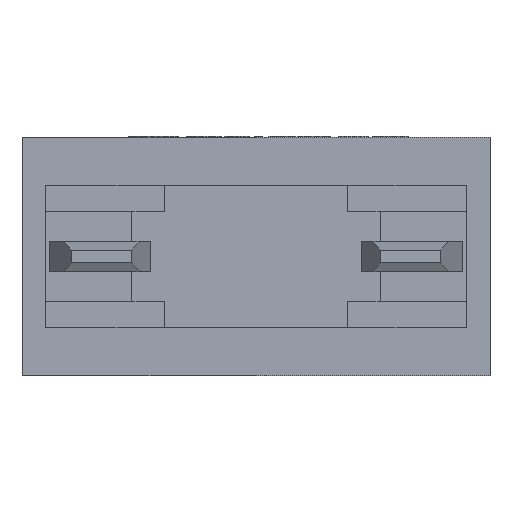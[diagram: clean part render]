
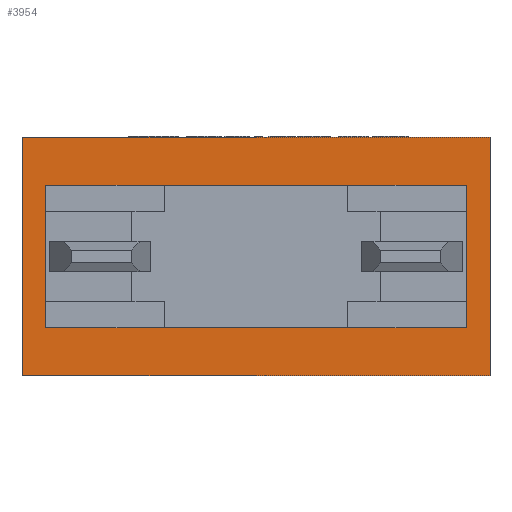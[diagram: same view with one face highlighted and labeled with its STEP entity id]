
A CAD part, front view. The second image highlights one B-rep face of the part: STEP entity #3954.
In plain terms, the highlighted planar face has unit normal (0, -1, 0).
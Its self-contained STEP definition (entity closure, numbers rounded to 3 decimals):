
#29=FACE_BOUND('',#681,.T.);
#459=FACE_OUTER_BOUND('',#680,.T.);
#680=EDGE_LOOP('',(#3592,#3593,#3594,#3595));
#681=EDGE_LOOP('',(#3596,#3597,#3598,#3599));
#710=LINE('',#4883,#1140);
#717=LINE('',#4898,#1147);
#1029=LINE('',#6885,#1459);
#1053=LINE('',#6934,#1483);
#1071=LINE('',#6968,#1501);
#1112=LINE('',#7054,#1542);
#1113=LINE('',#7056,#1543);
#1114=LINE('',#7058,#1544);
#1140=VECTOR('',#4160,10.);
#1147=VECTOR('',#4171,10.);
#1459=VECTOR('',#4653,10.);
#1483=VECTOR('',#4685,10.);
#1501=VECTOR('',#4721,10.);
#1542=VECTOR('',#4814,10.);
#1543=VECTOR('',#4817,10.);
#1544=VECTOR('',#4820,10.);
#1565=VERTEX_POINT('',#4880);
#1566=VERTEX_POINT('',#4882);
#1571=VERTEX_POINT('',#4895);
#1572=VERTEX_POINT('',#4897);
#1872=VERTEX_POINT('',#6882);
#1873=VERTEX_POINT('',#6884);
#1893=VERTEX_POINT('',#6931);
#1894=VERTEX_POINT('',#6933);
#1946=EDGE_CURVE('',#1566,#1565,#710,.T.);
#1953=EDGE_CURVE('',#1572,#1571,#717,.T.);
#2399=EDGE_CURVE('',#1873,#1872,#1029,.T.);
#2423=EDGE_CURVE('',#1893,#1894,#1053,.T.);
#2441=EDGE_CURVE('',#1893,#1873,#1071,.T.);
#2482=EDGE_CURVE('',#1571,#1566,#1112,.T.);
#2483=EDGE_CURVE('',#1565,#1572,#1113,.T.);
#2484=EDGE_CURVE('',#1894,#1872,#1114,.T.);
#3592=ORIENTED_EDGE('',*,*,#2441,.T.);
#3593=ORIENTED_EDGE('',*,*,#2399,.T.);
#3594=ORIENTED_EDGE('',*,*,#2484,.F.);
#3595=ORIENTED_EDGE('',*,*,#2423,.F.);
#3596=ORIENTED_EDGE('',*,*,#1953,.T.);
#3597=ORIENTED_EDGE('',*,*,#2482,.T.);
#3598=ORIENTED_EDGE('',*,*,#1946,.T.);
#3599=ORIENTED_EDGE('',*,*,#2483,.T.);
#3748=PLANE('',#4113);
#3954=ADVANCED_FACE('',(#459,#29),#3748,.T.);
#4113=AXIS2_PLACEMENT_3D('',#7057,#4818,#4819);
#4160=DIRECTION('',(0.,0.,1.));
#4171=DIRECTION('',(0.,0.,-1.));
#4653=DIRECTION('',(-1.,0.,0.));
#4685=DIRECTION('',(-1.,0.,0.));
#4721=DIRECTION('',(0.,0.,1.));
#4814=DIRECTION('',(-1.,0.,0.));
#4817=DIRECTION('',(1.,0.,0.));
#4818=DIRECTION('center_axis',(0.,-1.,0.));
#4819=DIRECTION('ref_axis',(0.,0.,
1.));
#4820=DIRECTION('',(0.,0.,1.));
#4880=CARTESIAN_POINT('',(0.625,-1.,1.9));
#4882=CARTESIAN_POINT('',(0.625,-1.,-1.9));
#4883=CARTESIAN_POINT('',(0.625,-1.,-0.638));
#4895=CARTESIAN_POINT('',(11.825,-1.,-1.9));
#4897=CARTESIAN_POINT('',(11.825,-1.,1.9));
#4898=CARTESIAN_POINT('',(11.825,-1.,-2.538));
#6882=CARTESIAN_POINT('',(0.,-1.,3.175));
#6884=CARTESIAN_POINT('',(12.45,-1.,3.175));
#6885=CARTESIAN_POINT('',(12.45,-1.,3.175));
#6931=CARTESIAN_POINT('',(12.45,-1.,-3.175));
#6933=CARTESIAN_POINT('',(0.,-1.,-3.175));
#6934=CARTESIAN_POINT('',(12.45,-1.,-3.175));
#6968=CARTESIAN_POINT('',(12.45,-1.,-3.175));
#7054=CARTESIAN_POINT('',(6.538,-1.,-1.9));
#7056=CARTESIAN_POINT('',(12.138,-1.,1.9));
#7057=CARTESIAN_POINT('Origin',(12.45,-1.,-3.175));
#7058=CARTESIAN_POINT('',(0.,-1.,-3.175));
